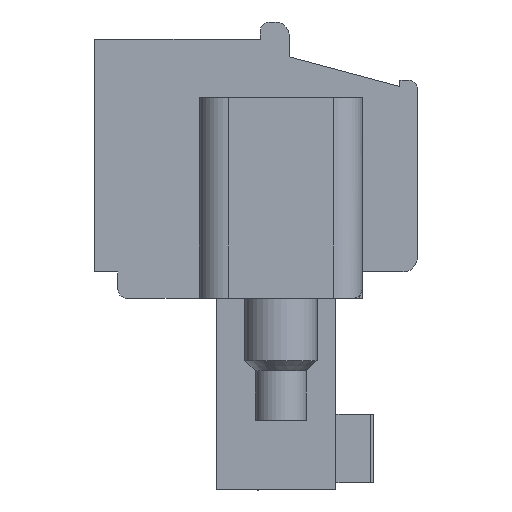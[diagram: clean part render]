
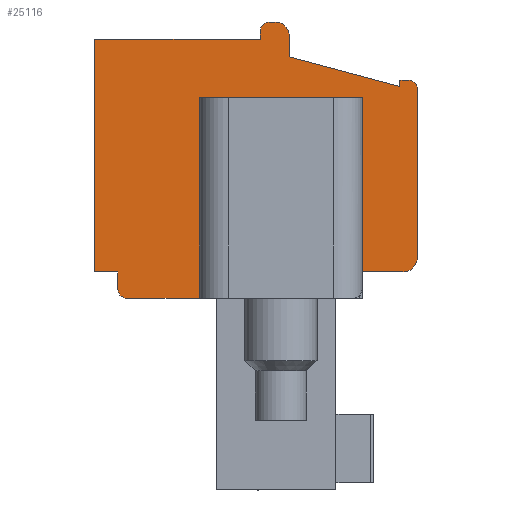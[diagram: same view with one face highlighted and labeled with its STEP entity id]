
A CAD part, front view. The second image highlights one B-rep face of the part: STEP entity #25116.
In plain terms, the highlighted planar face has unit normal (0, -1, 0).
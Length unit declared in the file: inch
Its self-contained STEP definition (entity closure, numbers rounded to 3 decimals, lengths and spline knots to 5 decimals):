
#532=DIRECTION('',(0.,0.,1.));
#533=VECTOR('',#532,0.01181);
#534=CARTESIAN_POINT('',(-0.14245,-1.22602,
3.12639));
#535=LINE('',#534,#533);
#5520=DIRECTION('',(1.,0.,0.));
#5521=VECTOR('',#5520,0.09843);
#5522=CARTESIAN_POINT('',(-0.32355,-1.22602,2.776));
#5523=LINE('',#5522,#5521);
#5524=CARTESIAN_POINT('',(-0.32355,-1.22602,
2.78781));
#5525=DIRECTION('',(0.,-1.,0.));
#5526=DIRECTION('',(-1.,0.,0.));
#5527=AXIS2_PLACEMENT_3D('',#5524,#5525,#5526);
#5529=DIRECTION('',(0.,0.,-1.));
#5530=VECTOR('',#5529,0.02362);
#5531=CARTESIAN_POINT('',(-0.33536,-1.22602,
2.81143));
#5532=LINE('',#5531,#5530);
#5533=DIRECTION('',(1.,0.,0.));
#5534=VECTOR('',#5533,0.0315);
#5535=CARTESIAN_POINT('',(-0.36686,-1.22602,
2.81143));
#5536=LINE('',#5535,#5534);
#5537=DIRECTION('',(0.,0.,-1.));
#5538=VECTOR('',#5537,0.31496);
#5539=CARTESIAN_POINT('',(-0.36686,-1.22602,
3.12639));
#5540=LINE('',#5539,#5538);
#5541=DIRECTION('',(-1.,0.,0.));
#5542=VECTOR('',#5541,0.22441);
#5543=CARTESIAN_POINT('',(-0.14245,-1.22602,
3.12639));
#5544=LINE('',#5543,#5542);
#5545=CARTESIAN_POINT('',(-0.13064,-1.22602,
3.1382));
#5546=DIRECTION('',(0.,-1.,0.));
#5547=DIRECTION('',(0.,0.,1.));
#5548=AXIS2_PLACEMENT_3D('',#5545,#5546,#5547);
#5550=DIRECTION('',(-1.,0.,0.));
#5551=VECTOR('',#5550,0.00787);
#5552=CARTESIAN_POINT('',(-0.12276,-1.22602,
3.15002));
#5553=LINE('',#5552,#5551);
#5554=CARTESIAN_POINT('',(-0.12276,-1.22602,
3.13033));
#5555=DIRECTION('',(0.,-1.,0.));
#5556=DIRECTION('',(1.,0.,0.));
#5557=AXIS2_PLACEMENT_3D('',#5554,#5555,#5556);
#5559=DIRECTION('',(0.,0.,1.));
#5560=VECTOR('',#5559,0.02756);
#5561=CARTESIAN_POINT('',(-0.10308,-1.22602,
3.10277));
#5562=LINE('',#5561,#5560);
#5563=DIRECTION('',(-0.966,0.,0.259));
#5564=VECTOR('',#5563,0.15488);
#5565=CARTESIAN_POINT('',(0.04653,-1.22602,
3.06268));
#5566=LINE('',#5565,#5564);
#5567=DIRECTION('',(0.,0.,-1.));
#5568=VECTOR('',#5567,0.00859);
#5569=CARTESIAN_POINT('',(0.04653,-1.22602,
3.07128));
#5570=LINE('',#5569,#5568);
#5571=DIRECTION('',(-1.,0.,0.));
#5572=VECTOR('',#5571,0.01181);
#5573=CARTESIAN_POINT('',(0.05834,-1.22602,
3.07128));
#5574=LINE('',#5573,#5572);
#5575=CARTESIAN_POINT('',(0.05834,-1.22602,
3.05946));
#5576=DIRECTION('',(0.,-1.,0.));
#5577=DIRECTION('',(1.,0.,0.));
#5578=AXIS2_PLACEMENT_3D('',#5575,#5576,#5577);
#5580=DIRECTION('',(0.,0.,1.));
#5581=VECTOR('',#5580,0.22835);
#5582=CARTESIAN_POINT('',(0.07015,-1.22602,
2.83112));
#5583=LINE('',#5582,#5581);
#5584=CARTESIAN_POINT('',(0.05046,-1.22602,
2.83112));
#5585=DIRECTION('',(0.,-1.,0.));
#5586=DIRECTION('',(0.,0.,-1.));
#5587=AXIS2_PLACEMENT_3D('',#5584,#5585,#5586);
#5589=DIRECTION('',(1.,0.,0.));
#5590=VECTOR('',#5589,0.05512);
#5591=CARTESIAN_POINT('',(-0.00465,-1.22602,
2.81143));
#5592=LINE('',#5591,#5590);
#5593=DIRECTION('',(0.,0.,-1.));
#5594=VECTOR('',#5593,0.23622);
#5595=CARTESIAN_POINT('',(-0.00465,-1.22602,
3.04765));
#5596=LINE('',#5595,#5594);
#5597=DIRECTION('',(0.,0.,-1.));
#5598=VECTOR('',#5597,0.27165);
#5599=CARTESIAN_POINT('',(-0.22513,-1.22602,
3.04765));
#5600=LINE('',#5599,#5598);
#5601=DIRECTION('',(-1.,0.,0.));
#5602=VECTOR('',#5601,0.22047);
#5603=CARTESIAN_POINT('',(-0.00465,-1.22602,
3.04765));
#5604=LINE('',#5603,#5602);
#15132=CARTESIAN_POINT('',(-0.33536,-1.22602,
2.78781));
#15133=VERTEX_POINT('',#15132);
#15134=CARTESIAN_POINT('',(-0.32355,-1.22602,2.776));
#15135=VERTEX_POINT('',#15134);
#15140=CARTESIAN_POINT('',(-0.13064,-1.22602,
3.15002));
#15141=VERTEX_POINT('',#15140);
#15142=CARTESIAN_POINT('',(-0.14245,-1.22602,
3.1382));
#15143=VERTEX_POINT('',#15142);
#15566=CARTESIAN_POINT('',(-0.10308,-1.22602,
3.13033));
#15567=CARTESIAN_POINT('',(-0.12276,-1.22602,
3.15002));
#15568=VERTEX_POINT('',#15566);
#15569=VERTEX_POINT('',#15567);
#15667=CARTESIAN_POINT('',(0.07015,-1.22602,
3.05946));
#15668=VERTEX_POINT('',#15667);
#15669=CARTESIAN_POINT('',(0.05834,-1.22602,
3.07128));
#15670=VERTEX_POINT('',#15669);
#15945=CARTESIAN_POINT('',(-0.00465,-1.22602,
3.04765));
#15946=VERTEX_POINT('',#15945);
#15947=CARTESIAN_POINT('',(-0.00465,-1.22602,
2.81143));
#15948=VERTEX_POINT('',#15947);
#18019=CARTESIAN_POINT('',(0.04653,-1.22602,
3.06268));
#18020=CARTESIAN_POINT('',(-0.10308,-1.22602,
3.10277));
#18021=VERTEX_POINT('',#18019);
#18022=VERTEX_POINT('',#18020);
#18373=CARTESIAN_POINT('',(-0.33536,-1.22602,
2.81143));
#18374=VERTEX_POINT('',#18373);
#18375=CARTESIAN_POINT('',(-0.36686,-1.22602,
3.12639));
#18376=VERTEX_POINT('',#18375);
#18377=CARTESIAN_POINT('',(-0.36686,-1.22602,
2.81143));
#18378=VERTEX_POINT('',#18377);
#18413=CARTESIAN_POINT('',(-0.14245,-1.22602,
3.12639));
#18414=VERTEX_POINT('',#18413);
#18526=CARTESIAN_POINT('',(-0.22513,-1.22602,2.776));
#18527=VERTEX_POINT('',#18526);
#18572=CARTESIAN_POINT('',(0.07015,-1.22602,
2.83112));
#18573=VERTEX_POINT('',#18572);
#18597=CARTESIAN_POINT('',(0.04653,-1.22602,
3.07128));
#18598=VERTEX_POINT('',#18597);
#18711=CARTESIAN_POINT('',(0.05046,-1.22602,
2.81143));
#18712=VERTEX_POINT('',#18711);
#18743=CARTESIAN_POINT('',(-0.22513,-1.22602,
3.04765));
#18744=VERTEX_POINT('',#18743);
#25074=CARTESIAN_POINT('',(-2.03461,-1.22602,
3.02188));
#25075=DIRECTION('',(0.,1.,0.));
#25076=DIRECTION('',(0.,0.,1.));
#25077=AXIS2_PLACEMENT_3D('',#25074,#25075,#25076);
#25078=PLANE('',#25077);
#25080=ORIENTED_EDGE('',*,*,#25079,.T.);
#25081=ORIENTED_EDGE('',*,*,#24512,.F.);
#25082=ORIENTED_EDGE('',*,*,#24501,.F.);
#25083=ORIENTED_EDGE('',*,*,#24487,.F.);
#25084=ORIENTED_EDGE('',*,*,#24473,.F.);
#25085=ORIENTED_EDGE('',*,*,#24459,.F.);
#25086=ORIENTED_EDGE('',*,*,#18980,.F.);
#25087=ORIENTED_EDGE('',*,*,#19324,.T.);
#25089=ORIENTED_EDGE('',*,*,#25088,.F.);
#25091=ORIENTED_EDGE('',*,*,#25090,.F.);
#25093=ORIENTED_EDGE('',*,*,#25092,.F.);
#25095=ORIENTED_EDGE('',*,*,#25094,.F.);
#25097=ORIENTED_EDGE('',*,*,#25096,.F.);
#25099=ORIENTED_EDGE('',*,*,#25098,.F.);
#25101=ORIENTED_EDGE('',*,*,#25100,.F.);
#25103=ORIENTED_EDGE('',*,*,#25102,.F.);
#25105=ORIENTED_EDGE('',*,*,#25104,.F.);
#25107=ORIENTED_EDGE('',*,*,#25106,.F.);
#25109=ORIENTED_EDGE('',*,*,#25108,.F.);
#25111=ORIENTED_EDGE('',*,*,#25110,.F.);
#25113=ORIENTED_EDGE('',*,*,#25112,.T.);
#25114=EDGE_LOOP('',(#25080,#25081,#25082,#25083,#25084,#25085,#25086,#25087,
#25089,#25091,#25093,#25095,#25097,#25099,#25101,#25103,#25105,#25107,#25109,
#25111,#25113));
#25115=FACE_OUTER_BOUND('',#25114,.F.);
#25116=ADVANCED_FACE('',(#25115),#25078,.F.);
#5528=CIRCLE('',#5527,0.01181);
#5549=CIRCLE('',#5548,0.01181);
#5558=CIRCLE('',#5557,0.01969);
#5579=CIRCLE('',#5578,0.01181);
#5588=CIRCLE('',#5587,0.01969);
#18980=EDGE_CURVE('',#18414,#18376,#5544,.T.);
#19324=EDGE_CURVE('',#18414,#15143,#535,.T.);
#24459=EDGE_CURVE('',#18376,#18378,#5540,.T.);
#24473=EDGE_CURVE('',#18378,#18374,#5536,.T.);
#24487=EDGE_CURVE('',#18374,#15133,#5532,.T.);
#24501=EDGE_CURVE('',#15133,#15135,#5528,.T.);
#24512=EDGE_CURVE('',#15135,#18527,#5523,.T.);
#25079=EDGE_CURVE('',#18744,#18527,#5600,.T.);
#25088=EDGE_CURVE('',#15141,#15143,#5549,.T.);
#25090=EDGE_CURVE('',#15569,#15141,#5553,.T.);
#25092=EDGE_CURVE('',#15568,#15569,#5558,.T.);
#25094=EDGE_CURVE('',#18022,#15568,#5562,.T.);
#25096=EDGE_CURVE('',#18021,#18022,#5566,.T.);
#25098=EDGE_CURVE('',#18598,#18021,#5570,.T.);
#25100=EDGE_CURVE('',#15670,#18598,#5574,.T.);
#25102=EDGE_CURVE('',#15668,#15670,#5579,.T.);
#25104=EDGE_CURVE('',#18573,#15668,#5583,.T.);
#25106=EDGE_CURVE('',#18712,#18573,#5588,.T.);
#25108=EDGE_CURVE('',#15948,#18712,#5592,.T.);
#25110=EDGE_CURVE('',#15946,#15948,#5596,.T.);
#25112=EDGE_CURVE('',#15946,#18744,#5604,.T.);
